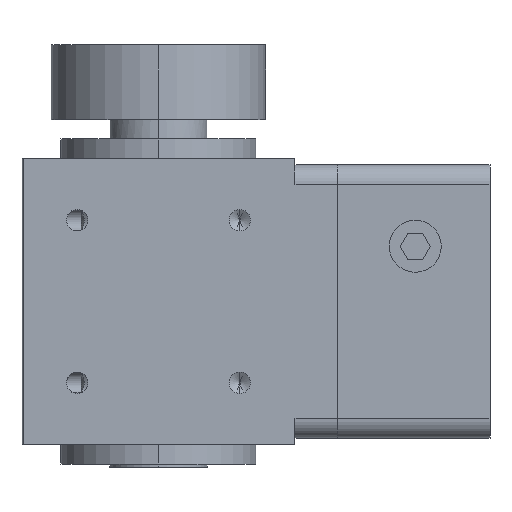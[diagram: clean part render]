
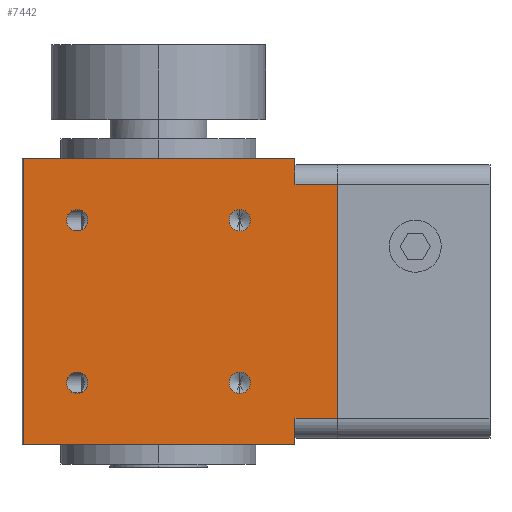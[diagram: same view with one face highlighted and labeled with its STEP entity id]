
A CAD part, left-side view. The second image highlights one B-rep face of the part: STEP entity #7442.
In plain terms, the highlighted planar face has unit normal (-1, 0, 0).
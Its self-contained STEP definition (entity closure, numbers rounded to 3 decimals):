
#48 = ORIENTED_EDGE ( 'NONE', *, *, #237, .F. ) ;
#84 = VERTEX_POINT ( 'NONE', #1993 ) ;
#87 = CIRCLE ( 'NONE', #7582, 1.65 ) ;
#135 = AXIS2_PLACEMENT_3D ( 'NONE', #4262, #6849, #1730 ) ;
#168 = ORIENTED_EDGE ( 'NONE', *, *, #7118, .T. ) ;
#199 = DIRECTION ( 'NONE',  ( 0., 0., -1. ) ) ;
#237 = EDGE_CURVE ( 'NONE', #2917, #3468, #355, .T. ) ;
#307 = EDGE_LOOP ( 'NONE', ( #3567, #8249, #2607, #788, #168, #1269, #5702, #7630 ) ) ;
#351 = CARTESIAN_POINT ( 'NONE',  ( -21., 12.5, -14.15 ) ) ;
#355 = CIRCLE ( 'NONE', #135, 1.65 ) ;
#370 = ORIENTED_EDGE ( 'NONE', *, *, #2795, .F. ) ;
#383 = CIRCLE ( 'NONE', #3895, 1.65 ) ;
#411 = EDGE_CURVE ( 'NONE', #5128, #5190, #7659, .T. ) ;
#471 = DIRECTION ( 'NONE',  ( -1., 0., 0. ) ) ;
#587 = DIRECTION ( 'NONE',  ( 0., 0., 1. ) ) ;
#655 = EDGE_CURVE ( 'NONE', #4723, #7968, #1343, .T. ) ;
#660 = CARTESIAN_POINT ( 'NONE',  ( -21., 20.7, 22. ) ) ;
#720 = VECTOR ( 'NONE', #1311, 1000. ) ;
#780 = EDGE_LOOP ( 'NONE', ( #48, #2872 ) ) ;
#788 = ORIENTED_EDGE ( 'NONE', *, *, #2140, .T. ) ;
#853 = ORIENTED_EDGE ( 'NONE', *, *, #6051, .F. ) ;
#1005 = CARTESIAN_POINT ( 'NONE',  ( -21., 21., -22. ) ) ;
#1011 = DIRECTION ( 'NONE',  ( 0., -1., 0. ) ) ;
#1269 = ORIENTED_EDGE ( 'NONE', *, *, #6817, .F. ) ;
#1311 = DIRECTION ( 'NONE',  ( 0., 0., 1. ) ) ;
#1343 = LINE ( 'NONE', #7304, #3660 ) ;
#1386 = DIRECTION ( 'NONE',  ( 0., -1., 0. ) ) ;
#1487 = CARTESIAN_POINT ( 'NONE',  ( -21., -21., 22. ) ) ;
#1662 = VERTEX_POINT ( 'NONE', #2000 ) ;
#1706 = FACE_OUTER_BOUND ( 'NONE', #307, .T. ) ;
#1726 = LINE ( 'NONE', #4525, #720 ) ;
#1730 = DIRECTION ( 'NONE',  ( 0., 0., 1. ) ) ;
#1746 = CARTESIAN_POINT ( 'NONE',  ( -21., 21., 22. ) ) ;
#1817 = AXIS2_PLACEMENT_3D ( 'NONE', #3413, #7160, #5358 ) ;
#1876 = VERTEX_POINT ( 'NONE', #2973 ) ;
#1897 = CARTESIAN_POINT ( 'NONE',  ( -21., -12.5, -12.5 ) ) ;
#1919 = VECTOR ( 'NONE', #5071, 1000. ) ;
#1993 = CARTESIAN_POINT ( 'NONE',  ( -21., 12.5, -10.85 ) ) ;
#2000 = CARTESIAN_POINT ( 'NONE',  ( -21., 12.5, 14.15 ) ) ;
#2055 = DIRECTION ( 'NONE',  ( -1., 0., 0. ) ) ;
#2106 = AXIS2_PLACEMENT_3D ( 'NONE', #3456, #2185, #3369 ) ;
#2116 = VECTOR ( 'NONE', #199, 1000. ) ;
#2140 = EDGE_CURVE ( 'NONE', #6534, #4622, #1726, .T. ) ;
#2165 = CIRCLE ( 'NONE', #2425, 1.65 ) ;
#2185 = DIRECTION ( 'NONE',  ( -1., 0., 0. ) ) ;
#2216 = LINE ( 'NONE', #3424, #2116 ) ;
#2265 = AXIS2_PLACEMENT_3D ( 'NONE', #1897, #2534, #5045 ) ;
#2309 = CIRCLE ( 'NONE', #2106, 1.65 ) ;
#2361 = DIRECTION ( 'NONE',  ( 0., 0., 1. ) ) ;
#2418 = LINE ( 'NONE', #1746, #3232 ) ;
#2425 = AXIS2_PLACEMENT_3D ( 'NONE', #2729, #2055, #4028 ) ;
#2433 = AXIS2_PLACEMENT_3D ( 'NONE', #6259, #471, #2361 ) ;
#2450 = DIRECTION ( 'NONE',  ( -1., 0., 0. ) ) ;
#2532 = EDGE_CURVE ( 'NONE', #3468, #2917, #5034, .T. ) ;
#2534 = DIRECTION ( 'NONE',  ( -1., 0., 0. ) ) ;
#2607 = ORIENTED_EDGE ( 'NONE', *, *, #5139, .T. ) ;
#2729 = CARTESIAN_POINT ( 'NONE',  ( -21., 12.5, 12.5 ) ) ;
#2795 = EDGE_CURVE ( 'NONE', #1662, #5254, #2165, .T. ) ;
#2798 = VERTEX_POINT ( 'NONE', #7183 ) ;
#2841 = DIRECTION ( 'NONE',  ( 0., 0., -1. ) ) ;
#2869 = CARTESIAN_POINT ( 'NONE',  ( -21., -12.5, 14.15 ) ) ;
#2872 = ORIENTED_EDGE ( 'NONE', *, *, #2532, .F. ) ;
#2917 = VERTEX_POINT ( 'NONE', #2869 ) ;
#2973 = CARTESIAN_POINT ( 'NONE',  ( -21., -27.5, -18. ) ) ;
#3040 = EDGE_CURVE ( 'NONE', #4723, #3379, #2418, .T. ) ;
#3132 = DIRECTION ( 'NONE',  ( 0., 0., 1. ) ) ;
#3232 = VECTOR ( 'NONE', #1011, 1000. ) ;
#3288 = EDGE_LOOP ( 'NONE', ( #370, #853 ) ) ;
#3301 = ORIENTED_EDGE ( 'NONE', *, *, #5225, .F. ) ;
#3364 = EDGE_CURVE ( 'NONE', #7586, #84, #2309, .T. ) ;
#3369 = DIRECTION ( 'NONE',  ( 0., 0., 1. ) ) ;
#3379 = VERTEX_POINT ( 'NONE', #1487 ) ;
#3413 = CARTESIAN_POINT ( 'NONE',  ( -21., 21., -22. ) ) ;
#3424 = CARTESIAN_POINT ( 'NONE',  ( -21., -27.5, 21. ) ) ;
#3456 = CARTESIAN_POINT ( 'NONE',  ( -21., 12.5, -12.5 ) ) ;
#3467 = ORIENTED_EDGE ( 'NONE', *, *, #4560, .F. ) ;
#3468 = VERTEX_POINT ( 'NONE', #7171 ) ;
#3567 = ORIENTED_EDGE ( 'NONE', *, *, #3040, .F. ) ;
#3660 = VECTOR ( 'NONE', #2841, 1000. ) ;
#3710 = DIRECTION ( 'NONE',  ( 0., 0., 1. ) ) ;
#3816 = CARTESIAN_POINT ( 'NONE',  ( -21., -21., -22. ) ) ;
#3895 = AXIS2_PLACEMENT_3D ( 'NONE', #7524, #4393, #3710 ) ;
#4025 = CARTESIAN_POINT ( 'NONE',  ( -21., 20.7, -22. ) ) ;
#4028 = DIRECTION ( 'NONE',  ( 0., 0., 1. ) ) ;
#4034 = PLANE ( 'NONE',  #1817 ) ;
#4234 = LINE ( 'NONE', #4442, #1919 ) ;
#4247 = DIRECTION ( 'NONE',  ( 0., -1., 0. ) ) ;
#4258 = EDGE_CURVE ( 'NONE', #2798, #6174, #6213, .T. ) ;
#4262 = CARTESIAN_POINT ( 'NONE',  ( -21., -12.5, 12.5 ) ) ;
#4393 = DIRECTION ( 'NONE',  ( -1., 0., 0. ) ) ;
#4433 = FACE_BOUND ( 'NONE', #7823, .T. ) ;
#4442 = CARTESIAN_POINT ( 'NONE',  ( -21., -21., -18. ) ) ;
#4525 = CARTESIAN_POINT ( 'NONE',  ( -21., -21., -22. ) ) ;
#4560 = EDGE_CURVE ( 'NONE', #84, #7586, #6409, .T. ) ;
#4622 = VERTEX_POINT ( 'NONE', #7537 ) ;
#4634 = LINE ( 'NONE', #3816, #5915 ) ;
#4723 = VERTEX_POINT ( 'NONE', #660 ) ;
#5034 = CIRCLE ( 'NONE', #5850, 1.65 ) ;
#5045 = DIRECTION ( 'NONE',  ( 0., 0., 1. ) ) ;
#5071 = DIRECTION ( 'NONE',  ( 0., -1., 0. ) ) ;
#5128 = VERTEX_POINT ( 'NONE', #6162 ) ;
#5139 = EDGE_CURVE ( 'NONE', #7968, #6534, #7589, .T. ) ;
#5190 = VERTEX_POINT ( 'NONE', #6939 ) ;
#5225 = EDGE_CURVE ( 'NONE', #5190, #5128, #383, .T. ) ;
#5254 = VERTEX_POINT ( 'NONE', #8152 ) ;
#5300 = DIRECTION ( 'NONE',  ( 0., 0., 1. ) ) ;
#5358 = DIRECTION ( 'NONE',  ( 0., -1., 0. ) ) ;
#5398 = VECTOR ( 'NONE', #1386, 1000. ) ;
#5506 = ORIENTED_EDGE ( 'NONE', *, *, #3364, .F. ) ;
#5702 = ORIENTED_EDGE ( 'NONE', *, *, #4258, .F. ) ;
#5758 = EDGE_LOOP ( 'NONE', ( #3467, #5506 ) ) ;
#5850 = AXIS2_PLACEMENT_3D ( 'NONE', #7543, #2450, #3132 ) ;
#5883 = VECTOR ( 'NONE', #4247, 1000. ) ;
#5915 = VECTOR ( 'NONE', #587, 1000. ) ;
#6051 = EDGE_CURVE ( 'NONE', #5254, #1662, #87, .T. ) ;
#6162 = CARTESIAN_POINT ( 'NONE',  ( -21., -12.5, -10.85 ) ) ;
#6174 = VERTEX_POINT ( 'NONE', #8049 ) ;
#6213 = LINE ( 'NONE', #7769, #5398 ) ;
#6251 = CARTESIAN_POINT ( 'NONE',  ( -21., -21., -22. ) ) ;
#6259 = CARTESIAN_POINT ( 'NONE',  ( -21., 12.5, -12.5 ) ) ;
#6409 = CIRCLE ( 'NONE', #2433, 1.65 ) ;
#6534 = VERTEX_POINT ( 'NONE', #6251 ) ;
#6537 = DIRECTION ( 'NONE',  ( -1., 0., 0. ) ) ;
#6817 = EDGE_CURVE ( 'NONE', #6174, #1876, #2216, .T. ) ;
#6849 = DIRECTION ( 'NONE',  ( -1., 0., 0. ) ) ;
#6910 = FACE_BOUND ( 'NONE', #3288, .T. ) ;
#6939 = CARTESIAN_POINT ( 'NONE',  ( -21., -12.5, -14.15 ) ) ;
#7090 = EDGE_CURVE ( 'NONE', #2798, #3379, #4634, .T. ) ;
#7118 = EDGE_CURVE ( 'NONE', #4622, #1876, #4234, .T. ) ;
#7160 = DIRECTION ( 'NONE',  ( -1., 0., 0. ) ) ;
#7171 = CARTESIAN_POINT ( 'NONE',  ( -21., -12.5, 10.85 ) ) ;
#7183 = CARTESIAN_POINT ( 'NONE',  ( -21., -21., 18. ) ) ;
#7217 = CARTESIAN_POINT ( 'NONE',  ( -21., 12.5, 12.5 ) ) ;
#7303 = FACE_BOUND ( 'NONE', #780, .T. ) ;
#7304 = CARTESIAN_POINT ( 'NONE',  ( -21., 20.7, -22. ) ) ;
#7442 = ADVANCED_FACE ( 'NONE', ( #1706, #7506, #6910, #7303, #4433 ), #4034, .T. ) ;
#7506 = FACE_BOUND ( 'NONE', #5758, .T. ) ;
#7524 = CARTESIAN_POINT ( 'NONE',  ( -21., -12.5, -12.5 ) ) ;
#7537 = CARTESIAN_POINT ( 'NONE',  ( -21., -21., -18. ) ) ;
#7543 = CARTESIAN_POINT ( 'NONE',  ( -21., -12.5, 12.5 ) ) ;
#7582 = AXIS2_PLACEMENT_3D ( 'NONE', #7217, #6537, #5300 ) ;
#7586 = VERTEX_POINT ( 'NONE', #351 ) ;
#7589 = LINE ( 'NONE', #1005, #5883 ) ;
#7630 = ORIENTED_EDGE ( 'NONE', *, *, #7090, .T. ) ;
#7659 = CIRCLE ( 'NONE', #2265, 1.65 ) ;
#7769 = CARTESIAN_POINT ( 'NONE',  ( -21., -21., 18. ) ) ;
#7809 = ORIENTED_EDGE ( 'NONE', *, *, #411, .F. ) ;
#7823 = EDGE_LOOP ( 'NONE', ( #7809, #3301 ) ) ;
#7968 = VERTEX_POINT ( 'NONE', #4025 ) ;
#8049 = CARTESIAN_POINT ( 'NONE',  ( -21., -27.5, 18. ) ) ;
#8152 = CARTESIAN_POINT ( 'NONE',  ( -21., 12.5, 10.85 ) ) ;
#8249 = ORIENTED_EDGE ( 'NONE', *, *, #655, .T. ) ;
